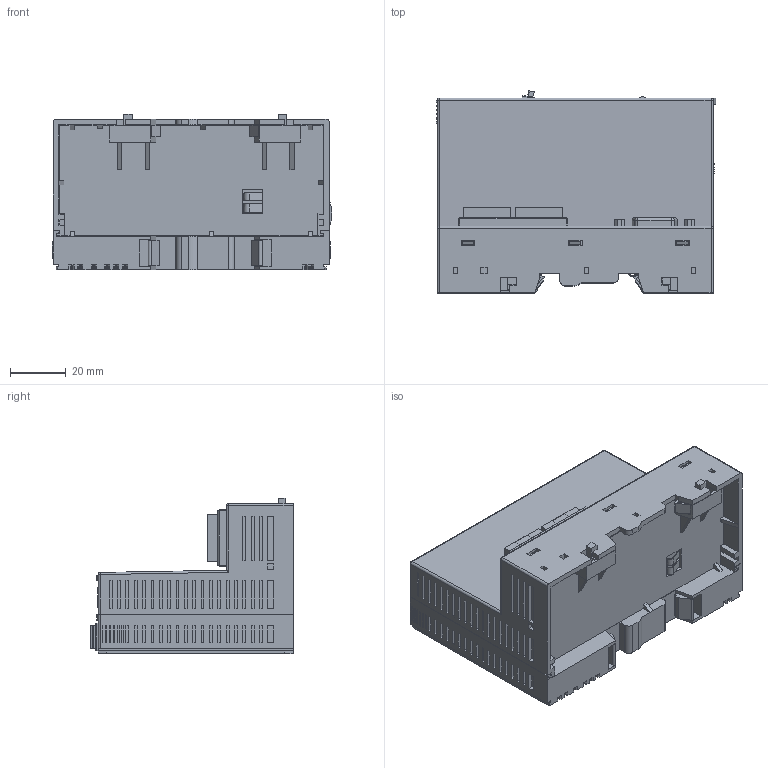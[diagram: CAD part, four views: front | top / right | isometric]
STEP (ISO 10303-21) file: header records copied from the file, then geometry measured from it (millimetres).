
FILE_DESCRIPTION((''),'2;1');
FILE_NAME('FNIO-NA-9372','2016-03-23T',('Dongwoo'),(''),'PRO/ENGINEER BY PARAMETRIC TECHNOLOGY CORPORATION, 2006170','PRO/ENGINEER BY PARAMETRIC TECHNOLOGY CORPORATION, 2006170','');
FILE_SCHEMA(('CONFIG_CONTROL_DESIGN'));
Length unit declared in the file: millimetre
Products named in the file (1): FNIO-NA-9372
Bounding box: 100.36 x 72.6 x 55.8 mm (x, y, z)
Volume: 227718.1 mm3; surface area: 57919.4 mm2
Topology: 2 solids, 2 shells, 1960 faces, 5258 edges, 3452 vertices
Faces by surface type: plane 1741, cylinder 183, sphere 16, cone 16, torus 4
Entity records: 60325 total; most frequent: CARTESIAN_POINT 10719, ORIENTED_EDGE 10516, DIRECTION 9557, EDGE_CURVE 5258, VECTOR 4861, LINE 4861, VERTEX_POINT 3452, AXIS2_PLACEMENT_3D 2348
